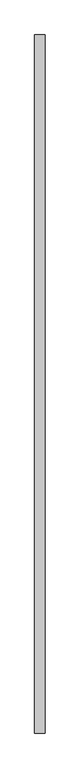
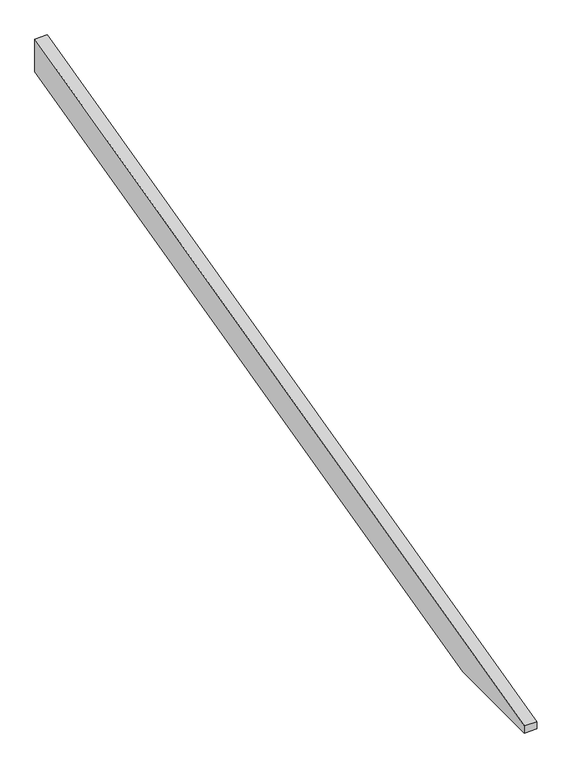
"""IFC4 building model written with IfcOpenShell, lengths in millimetres: proxy geometry, Modelos genéricos 110 : Modelos genéricos 12."""

from ifc_helpers import new_model, si_unit, frame, origin, place, context, project, spatial, polyline, outline, extrude, source, transform, mapped, element, save


def generic_models_02f32a16(model_context):
    return source(origin(), model_context, "Body", "SweptSolid", [
        extrude(outline(polyline([(-2181.3761835, 3197.4798401), (1878.6238165, 4209.7515316), (1878.6238165, 4044.8533509), (-1670.3291324, 3160.0), (-2181.3761835, 3160.0), (-2181.3761835, 3197.4798401)])), frame((5573.4472467, 0.0, 0.0), z_axis=(1.0, 0.0, 0.0), x_axis=(0.0, 1.0, 0.0)), (0.0, 0.0, 1.0), 60.0),
    ])


if __name__ == "__main__":
    model = new_model("IFC4")
    model_context = context("Model", 3, world=origin())
    ifc_project = project(units=[si_unit("LENGTHUNIT", "METRE", prefix="MILLI")], contexts=[model_context])
    site = spatial("IfcSite", under=ifc_project)
    building = spatial("IfcBuilding", under=site)
    placement = place(None, origin())
    generic_models_shape = generic_models_02f32a16(model_context)
    element("IfcBuildingElementProxy", 1, Name="Modelos genéricos 110 : Modelos genéricos 12", ObjectType="Modelos genéricos 110 : Modelos genéricos 12", at=placement, inside=building, context=model_context, shape_type="MappedRepresentation", body=[
        mapped(generic_models_shape, transform((0.0, 0.0, 0.0), x_axis=(1.0, 0.0, 0.0), y_axis=(0.0, 1.0, 0.0), z_axis=(0.0, 0.0, 1.0))),
    ])
    save(model, "model.ifc")
